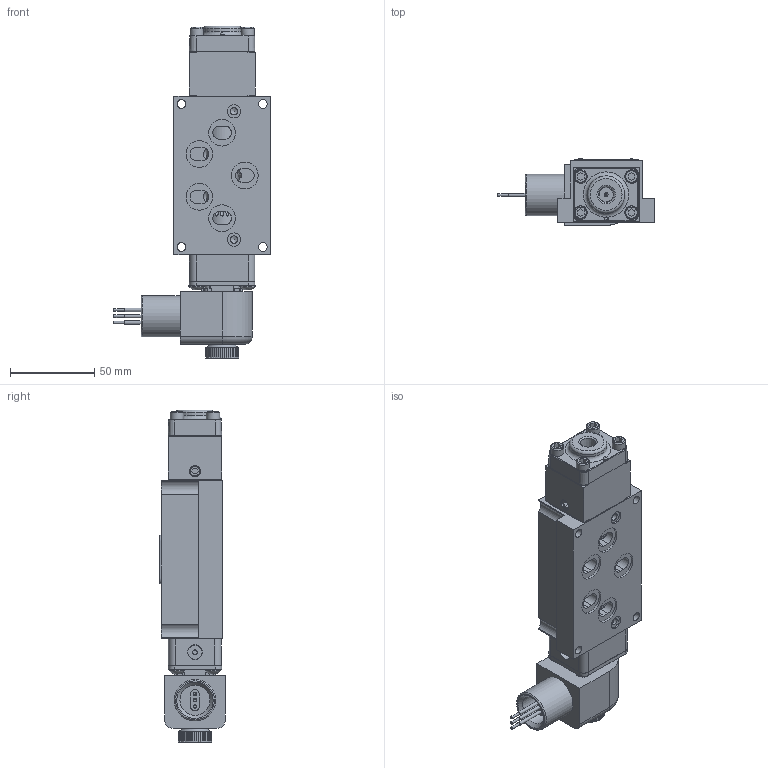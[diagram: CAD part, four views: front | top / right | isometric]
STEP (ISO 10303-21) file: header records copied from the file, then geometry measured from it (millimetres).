
FILE_DESCRIPTION(/* description */ (''),/* implementation_level */ '2;1');
FILE_NAME(/* name */ 'ESR3PXLQZ.stp',/* time_stamp */ '2026-09-26T07:43:38-04:00',/* author */ ('rmckenna'),/* organization */ (''),/* preprocessor_version */ 'ST-DEVELOPER v20.2',/* originating_system */ 'Autodesk Inventor 2027',/* authorisation */ '');
FILE_SCHEMA (('AUTOMOTIVE_DESIGN { 1 0 10303 214 3 1 1 }'));
Products named in the file (1): Part68
Bounding box: 92.9 x 39.5 x 197.23 mm (x, y, z)
Volume: 255379.1 mm3; surface area: 81293.2 mm2
Topology: 2 solids, 33 shells, 1641 faces, 3983 edges, 2541 vertices
Faces by surface type: plane 743, cylinder 462, cone 257, torus 127, bspline 45, sphere 7
Full cylindrical faces by diameter (mm): 1.016 x1, 1.3 x1, 1.397 x1, 1.5 x1, 1.524 x3, 2.032 x11, 2.07 x2, 2.261 x4, 2.35 x4, 2.362 x2, 2.381 x2, 2.778 x2, 2.8 x1, 2.819 x1, 3 x4, 3.048 x3, 3.175 x2, 3.353 x1, 3.4 x1, 3.683 x9, 3.861 x2, 4.191 x2, 4.366 x2, 4.369 x3, 4.826 x8, 4.953 x1, 4.978 x1, 5.15 x4, 5.156 x12, 5.159 x8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
Entity records: 53197 total; most frequent: CARTESIAN_POINT 12668, DIRECTION 8203, ORIENTED_EDGE 7918, EDGE_CURVE 3959, AXIS2_PLACEMENT_3D 3135, VERTEX_POINT 2539, LINE 1933, VECTOR 1933
